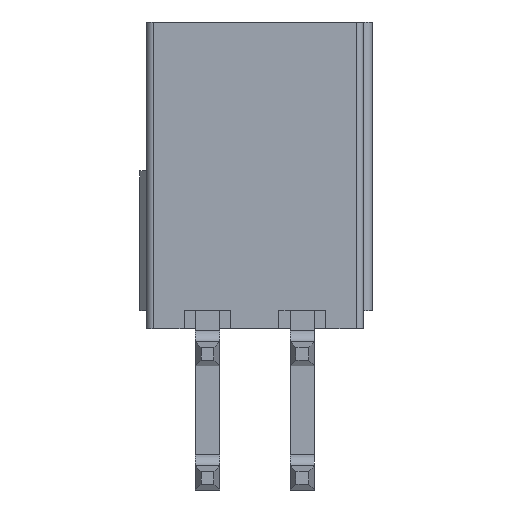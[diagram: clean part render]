
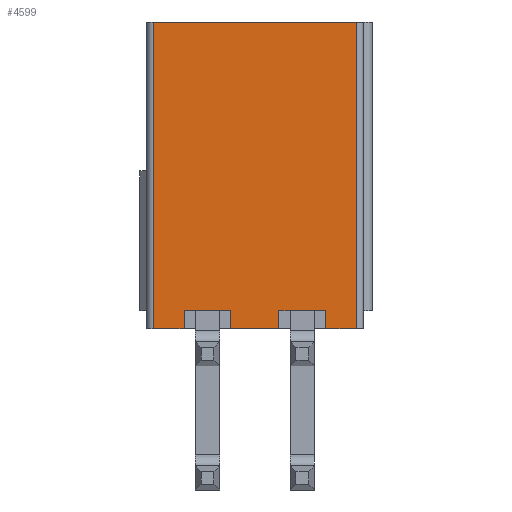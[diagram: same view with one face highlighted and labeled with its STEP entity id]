
A CAD part, front view. The second image highlights one B-rep face of the part: STEP entity #4599.
In plain terms, the highlighted planar face has unit normal (0, -1, 0).
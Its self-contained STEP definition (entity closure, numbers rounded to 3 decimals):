
#275=DIRECTION('',(1.,0.,0.));
#276=VECTOR('',#275,1.365);
#277=CARTESIAN_POINT('',(14.269,3.966,-17.826));
#278=LINE('',#277,#276);
#279=DIRECTION('',(0.,0.,-1.));
#280=VECTOR('',#279,13.6);
#281=CARTESIAN_POINT('',(14.269,3.966,-4.226));
#282=LINE('',#281,#280);
#287=DIRECTION('',(-1.,0.,0.));
#288=VECTOR('',#287,2.07);
#289=CARTESIAN_POINT('',(21.904,3.966,-17.026));
#290=LINE('',#289,#288);
#291=DIRECTION('',(0.,0.,1.));
#292=VECTOR('',#291,0.8);
#293=CARTESIAN_POINT('',(17.704,3.966,-17.826));
#294=LINE('',#293,#292);
#295=DIRECTION('',(-1.,0.,0.));
#296=VECTOR('',#295,2.07);
#297=CARTESIAN_POINT('',(17.704,3.966,-17.026));
#298=LINE('',#297,#296);
#299=DIRECTION('',(1.,0.,0.));
#300=VECTOR('',#299,9.);
#301=CARTESIAN_POINT('',(14.269,3.966,-4.226));
#302=LINE('',#301,#300);
#303=DIRECTION('',(0.,0.,1.));
#304=VECTOR('',#303,0.8);
#305=CARTESIAN_POINT('',(19.834,3.966,-17.826));
#306=LINE('',#305,#304);
#449=DIRECTION('',(1.,0.,0.));
#450=VECTOR('',#449,2.13);
#451=CARTESIAN_POINT('',(17.704,3.966,-17.826));
#452=LINE('',#451,#450);
#457=DIRECTION('',(0.,0.,1.));
#458=VECTOR('',#457,0.8);
#459=CARTESIAN_POINT('',(15.634,3.966,-17.826));
#460=LINE('',#459,#458);
#477=DIRECTION('',(0.,0.,1.));
#478=VECTOR('',#477,13.6);
#479=CARTESIAN_POINT('',(23.269,3.966,-17.826));
#480=LINE('',#479,#478);
#513=DIRECTION('',(1.,0.,0.));
#514=VECTOR('',#513,1.365);
#515=CARTESIAN_POINT('',(21.904,3.966,-17.826));
#516=LINE('',#515,#514);
#522=DIRECTION('',(0.,0.,-1.));
#523=VECTOR('',#522,0.8);
#524=CARTESIAN_POINT('',(21.904,3.966,-17.026));
#525=LINE('',#524,#523);
#3069=CARTESIAN_POINT('',(23.269,3.966,-4.226));
#3070=VERTEX_POINT('',#3069);
#3071=CARTESIAN_POINT('',(14.269,3.966,-4.226));
#3072=VERTEX_POINT('',#3071);
#3239=CARTESIAN_POINT('',(15.634,3.966,-17.026));
#3241=VERTEX_POINT('',#3239);
#3244=CARTESIAN_POINT('',(17.704,3.966,-17.026));
#3246=VERTEX_POINT('',#3244);
#3267=CARTESIAN_POINT('',(19.834,3.966,-17.026));
#3269=VERTEX_POINT('',#3267);
#3272=CARTESIAN_POINT('',(21.904,3.966,-17.026));
#3274=VERTEX_POINT('',#3272);
#3643=CARTESIAN_POINT('',(19.834,3.966,-17.826));
#3644=VERTEX_POINT('',#3643);
#3645=CARTESIAN_POINT('',(17.704,3.966,-17.826));
#3646=VERTEX_POINT('',#3645);
#3647=CARTESIAN_POINT('',(15.634,3.966,-17.826));
#3648=VERTEX_POINT('',#3647);
#3649=CARTESIAN_POINT('',(14.269,3.966,-17.826));
#3650=VERTEX_POINT('',#3649);
#3651=CARTESIAN_POINT('',(23.269,3.966,-17.826));
#3652=VERTEX_POINT('',#3651);
#3653=CARTESIAN_POINT('',(21.904,3.966,-17.826));
#3654=VERTEX_POINT('',#3653);
#4573=CARTESIAN_POINT('',(18.769,3.966,-11.026));
#4574=DIRECTION('',(0.,1.,0.));
#4575=DIRECTION('',(1.,0.,0.));
#4576=AXIS2_PLACEMENT_3D('',#4573,#4574,#4575);
#4577=PLANE('',#4576);
#4578=ORIENTED_EDGE('',*,*,#4208,.T.);
#4580=ORIENTED_EDGE('',*,*,#4579,.F.);
#4582=ORIENTED_EDGE('',*,*,#4581,.F.);
#4584=ORIENTED_EDGE('',*,*,#4583,.T.);
#4585=ORIENTED_EDGE('',*,*,#4180,.T.);
#4587=ORIENTED_EDGE('',*,*,#4586,.F.);
#4588=ORIENTED_EDGE('',*,*,#4553,.F.);
#4589=ORIENTED_EDGE('',*,*,#4565,.F.);
#4590=ORIENTED_EDGE('',*,*,#4040,.T.);
#4592=ORIENTED_EDGE('',*,*,#4591,.F.);
#4594=ORIENTED_EDGE('',*,*,#4593,.F.);
#4596=ORIENTED_EDGE('',*,*,#4595,.F.);
#4597=EDGE_LOOP('',(#4578,#4580,#4582,#4584,#4585,#4587,#4588,#4589,#4590,#4592,
#4594,#4596));
#4598=FACE_OUTER_BOUND('',#4597,.F.);
#4599=ADVANCED_FACE('',(#4598),#4577,.F.);
#4040=EDGE_CURVE('',#3072,#3070,#302,.T.);
#4180=EDGE_CURVE('',#3246,#3241,#298,.T.);
#4208=EDGE_CURVE('',#3274,#3269,#290,.T.);
#4553=EDGE_CURVE('',#3650,#3648,#278,.T.);
#4565=EDGE_CURVE('',#3072,#3650,#282,.T.);
#4579=EDGE_CURVE('',#3644,#3269,#306,.T.);
#4581=EDGE_CURVE('',#3646,#3644,#452,.T.);
#4583=EDGE_CURVE('',#3646,#3246,#294,.T.);
#4586=EDGE_CURVE('',#3648,#3241,#460,.T.);
#4591=EDGE_CURVE('',#3652,#3070,#480,.T.);
#4593=EDGE_CURVE('',#3654,#3652,#516,.T.);
#4595=EDGE_CURVE('',#3274,#3654,#525,.T.);
